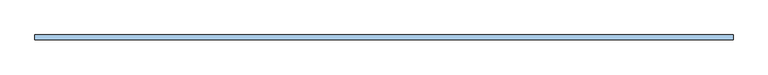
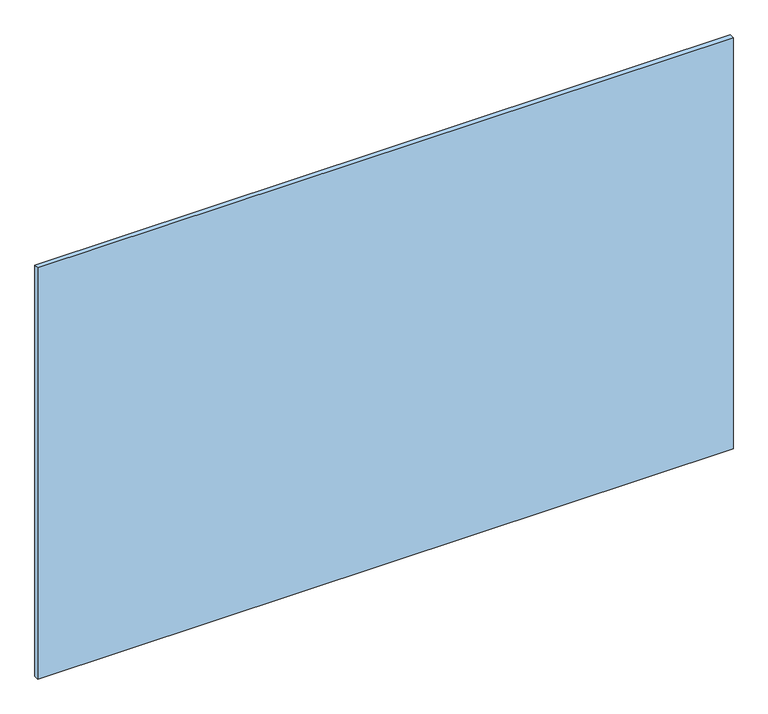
"""IFC4 building model written with IfcOpenShell, lengths in millimetres: window geometry, espejo biselado sin marco : ESP8-espejo biselado 160 x 100."""

from ifc_helpers import new_model, si_unit, origin, origin_with_axes, place, context, project, spatial, polyline, outline, extrude, source, transform, mapped, element, save


def window_84fe70d5(model_context):
    return source(origin(), model_context, "Body", "SweptSolid", [
        extrude(outline(polyline([(-800.0, 69.0), (-800.0, 80.0), (800.0, 80.0), (800.0, 69.0), (-800.0, 69.0)])), origin_with_axes(), (0.0, 0.0, 1.0), 1000.0),
    ])


if __name__ == "__main__":
    model = new_model("IFC4")
    model_context = context("Model", 3, world=origin())
    ifc_project = project(units=[si_unit("LENGTHUNIT", "METRE", prefix="MILLI")], contexts=[model_context])
    site = spatial("IfcSite", under=ifc_project)
    building = spatial("IfcBuilding", under=site)
    placement = place(None, origin())
    window_shape = window_84fe70d5(model_context)
    element("IfcWindow", 1, ObjectType="espejo biselado sin marco : ESP8-espejo biselado 160 x 100", at=placement, inside=building, context=model_context, shape_type="MappedRepresentation", body=[
        mapped(window_shape, transform((0.0, 0.0, 0.0), x_axis=(1.0, 0.0, 0.0), y_axis=(0.0, 1.0, 0.0), z_axis=(0.0, 0.0, 1.0))),
    ])
    save(model, "model.ifc")
